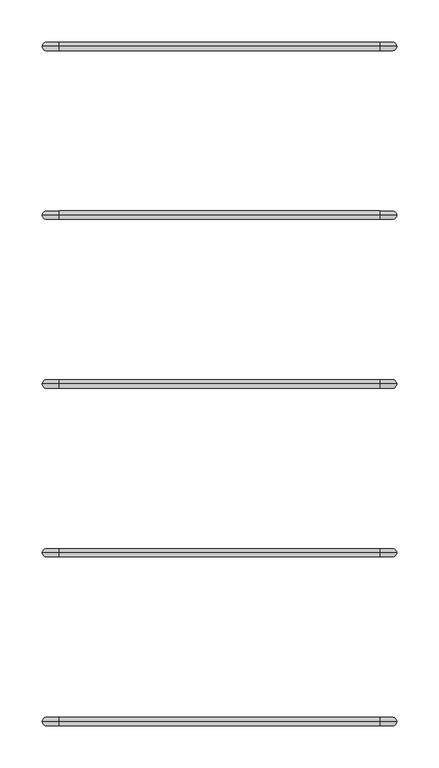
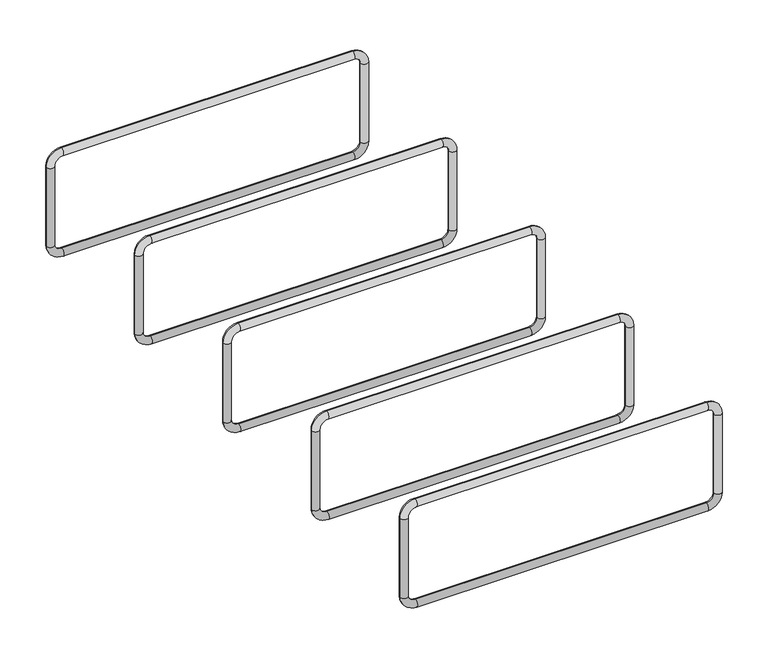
"""IFC4 building model written with IfcOpenShell, lengths in millimetres: fastener geometry, ACINOXplus_Typenreihe_Ux-Ox : OD+ S2."""

import ifcopenshell
import ifcopenshell.guid

model = None  # the IFC model being written
_history = None  # IfcOwnerHistory: only IFC2X3 demands one
_inside = {}  # id of a spatial element -> (the spatial element, [elements in it])
_under = {}  # id of a project, library or spatial element -> (it, [spatial elements below it])
_declared = {}  # id of a project -> (the project, [libraries it declares])
_typed = {}  # id of a type object -> (the type object, [elements of that type])
_made_of = {}  # id of a material, layer set ... -> (it, [elements and type objects made of it])


def new_model(schema):
    """Start an empty IFC model of exactly this schema.

    Asked for "IFC4X3", IfcOpenShell would pick the latest addendum, in which some entities
    have other attributes; the version numbers below select the first issue.
    IFC2X3 requires an IfcOwnerHistory on every rooted entity: one is made here for all.
    """
    global model, _history
    if schema == "IFC4X3":
        model = ifcopenshell.file(schema_version=(4, 3, 0, 0))
    else:
        model = ifcopenshell.file(schema=schema)
    _inside.clear()
    _under.clear()
    _declared.clear()
    _typed.clear()
    _made_of.clear()
    _history = None
    if model.schema == "IFC2X3":
        org = make("IfcOrganization", Name="unknown")
        user = make(
            "IfcPersonAndOrganization",
            ThePerson=make("IfcPerson", FamilyName="unknown"),
            TheOrganization=org,
        )
        app = make(
            "IfcApplication",
            ApplicationDeveloper=org,
            Version="unknown",
            ApplicationFullName="unknown",
            ApplicationIdentifier="unknown",
        )
        _history = make(
            "IfcOwnerHistory",
            OwningUser=user,
            OwningApplication=app,
            ChangeAction="ADDED",
            CreationDate=0,
        )
    return model


def make(cls, **values):
    """One entity of the class cls with the attributes given. An attribute that is None is left unset."""
    return model.create_entity(
        cls, **{name: value for name, value in values.items() if value is not None}
    )


def rooted(cls, **values):
    """An entity with a GlobalId (a new one), such as an element, a storey or a relation."""
    return make(cls, GlobalId=ifcopenshell.guid.new(), OwnerHistory=_history, **values)


def si_unit(unit_type, name, prefix=None):
    """IfcSIUnit, for example si_unit("LENGTHUNIT", "METRE", prefix="MILLI")."""
    return make("IfcSIUnit", UnitType=unit_type, Prefix=prefix, Name=name)


def assignment(units):
    """IfcUnitAssignment: the units of a project."""
    return None if units is None else make("IfcUnitAssignment", Units=units)


def point(xyz):
    """IfcCartesianPoint."""
    return None if xyz is None else make("IfcCartesianPoint", Coordinates=xyz)


def direction(xyz):
    """IfcDirection."""
    return None if xyz is None else make("IfcDirection", DirectionRatios=xyz)


def frame(location, z_axis=None, x_axis=None):
    """IfcAxis2Placement3D, a coordinate frame: its origin and axes. An axis left out is left unset."""
    return make(
        "IfcAxis2Placement3D",
        Location=point(location),
        Axis=direction(z_axis),
        RefDirection=direction(x_axis),
    )


def origin():
    """The frame at (0, 0, 0) with its axes left unset."""
    return frame((0.0, 0.0, 0.0))


def place(relative_to, where):
    """IfcLocalPlacement: puts the frame where relative to a parent placement (None: the world)."""
    return make(
        "IfcLocalPlacement", PlacementRelTo=relative_to, RelativePlacement=where
    )


def context(
    kind, dimensions, precision=None, world=None, true_north=None, identifier=None
):
    """IfcGeometricRepresentationContext, for example the 3D "Model" context."""
    return make(
        "IfcGeometricRepresentationContext",
        ContextIdentifier=identifier,
        ContextType=kind,
        CoordinateSpaceDimension=dimensions,
        Precision=precision,
        WorldCoordinateSystem=world,
        TrueNorth=true_north,
    )


def project(units=None, contexts=None):
    """IfcProject with its units and contexts."""
    return rooted(
        "IfcProject",
        Name="project",
        RepresentationContexts=contexts,
        UnitsInContext=assignment(units),
    )


def spatial(cls, under=None, at=None, **own):
    """A site, building, storey or space (cls), placed at a placement, below another one or the project."""
    s = rooted(cls, ObjectPlacement=at, **own)
    if under is not None:
        _under.setdefault(under.id(), (under, []))[1].append(s)
    return s


def circle_curve(where, radius):
    """IfcCircle in the frame where."""
    return make("IfcCircle", Position=where, Radius=radius)


def ellipse_curve(where, semi_axis1, semi_axis2):
    """IfcEllipse in the frame where."""
    return make(
        "IfcEllipse", Position=where, SemiAxis1=semi_axis1, SemiAxis2=semi_axis2
    )


def trimmed(basis, trim1, trim2, sense, master):
    """IfcTrimmedCurve: the piece of a basis curve between two trims."""
    return make(
        "IfcTrimmedCurve",
        BasisCurve=basis,
        Trim1=trim1,
        Trim2=trim2,
        SenseAgreement=sense,
        MasterRepresentation=master,
    )


def shape(context_of_items, identifier, shape_type, items):
    """IfcShapeRepresentation: the items that make up one representation, for example the "Body"."""
    return make(
        "IfcShapeRepresentation",
        ContextOfItems=context_of_items,
        RepresentationIdentifier=identifier,
        RepresentationType=shape_type,
        Items=items,
    )


def source(mapping_origin, context_of_items, identifier, shape_type, items):
    """IfcRepresentationMap: a shape defined once, which mapped items show again and again."""
    return make(
        "IfcRepresentationMap",
        MappingOrigin=mapping_origin,
        MappedRepresentation=shape(context_of_items, identifier, shape_type, items),
    )


def transform(
    local_origin,
    x_axis=None,
    y_axis=None,
    z_axis=None,
    scale=None,
    scale2=None,
    scale3=None,
    uniform=True,
):
    """IfcCartesianTransformationOperator3D, or its non-uniform kind. x_axis, y_axis, z_axis: its Axis1, 2, 3."""
    if uniform:
        return make(
            "IfcCartesianTransformationOperator3D",
            Axis1=direction(x_axis),
            Axis2=direction(y_axis),
            LocalOrigin=point(local_origin),
            Scale=scale,
            Axis3=direction(z_axis),
        )
    return make(
        "IfcCartesianTransformationOperator3DnonUniform",
        Axis1=direction(x_axis),
        Axis2=direction(y_axis),
        LocalOrigin=point(local_origin),
        Scale=scale,
        Axis3=direction(z_axis),
        Scale2=scale2,
        Scale3=scale3,
    )


def mapped(mapping_source, mapping_target):
    """IfcMappedItem: shows the shape of a source again, moved by a transform."""
    return make(
        "IfcMappedItem", MappingSource=mapping_source, MappingTarget=mapping_target
    )


def made_of(thing, what):
    """Note that an element or type object is made of a material, layer set ...; save() writes the relation."""
    if what is not None:
        _made_of.setdefault(what.id(), (what, []))[1].append(thing)
    return thing


def element(
    cls,
    number,
    at=None,
    inside=None,
    cuts=None,
    type_object=None,
    material=None,
    context=None,
    identifier="Body",
    shape_type=None,
    held_by="IfcProductDefinitionShape",
    body=None,
    shapes=None,
    **own,
):
    """One element of the class cls, such as IfcWall. Its Tag is "e" and its number.

    at: its placement. inside: the storey or other place that contains it. cuts: it is an
    opening in that element (IfcRelVoidsElement). A single representation is given by context,
    identifier, shape_type and body (its items); several are given by shapes. held_by: the class
    of the entity that holds the representations. save() writes the other relations.
    """
    e = rooted(cls, Tag="e%d" % number, ObjectPlacement=at, **own)
    if body is not None:
        shapes = [shape(context, identifier, shape_type, body)]
    if shapes is not None:
        e.Representation = make(held_by, Representations=shapes)
    if inside is not None:
        _inside.setdefault(inside.id(), (inside, []))[1].append(e)
    if cuts is not None:
        rooted(
            "IfcRelVoidsElement", RelatingBuildingElement=cuts, RelatedOpeningElement=e
        )
    if type_object is not None:
        _typed.setdefault(type_object.id(), (type_object, []))[1].append(e)
    return made_of(e, material)


def aggregate(whole, parts):
    """IfcRelAggregates: a whole, such as a stair, and the parts it consists of."""
    return rooted("IfcRelAggregates", RelatingObject=whole, RelatedObjects=parts)


def save(model, path):
    """Write the relations noted so far, then the file.

    IfcRelAggregates (storeys below a building ...), IfcRelContainedInSpatialStructure (elements
    in a storey), IfcRelDefinesByType, IfcRelAssociatesMaterial and IfcRelDeclares: one each for
    every whole, place, type object, material and project.
    """
    for whole, parts in _under.values():
        aggregate(whole, parts)
    for where, things in _inside.values():
        rooted(
            "IfcRelContainedInSpatialStructure",
            RelatedElements=things,
            RelatingStructure=where,
        )
    for kind, things in _typed.values():
        rooted("IfcRelDefinesByType", RelatedObjects=things, RelatingType=kind)
    for what, things in _made_of.values():
        rooted("IfcRelAssociatesMaterial", RelatedObjects=things, RelatingMaterial=what)
    for by, libraries in _declared.values():
        rooted("IfcRelDeclares", RelatingContext=by, RelatedDefinitions=libraries)
    model.write(path)


def cylinder_surface(at, radius):
    """IfcCylindricalSurface: all points at the distance radius from the z axis of the frame at."""
    return make("IfcCylindricalSurface", Position=at, Radius=radius)


def revolved_surface(curve, axis_point, axis_direction):
    """IfcSurfaceOfRevolution: the curve turned about the line through axis_point along axis_direction."""
    return make(
        "IfcSurfaceOfRevolution",
        SweptCurve=make("IfcArbitraryOpenProfileDef", ProfileType="CURVE", Curve=curve),
        AxisPosition=make("IfcAxis1Placement", Location=point(axis_point), Axis=direction(axis_direction)),
    )


def advanced_brep(points, edges, surfaces, faces):
    """IfcAdvancedBrep: a solid bounded by faces that lie on surfaces and meet in shared edges.

    An edge is (start, end): straight between two places in points (the first is 0);
    or (start, end, curve); or (start, end, curve, False) where it runs against its curve.
    A face is (place in surfaces, loops), or (place, loops, False) where it looks against
    its surface's normal. A loop lists edges by number (the first is 1), with a minus sign
    where the edge is run from its end to its start. The first loop is the outer one.
    """
    corners = [point(p) for p in points]
    vertices = [make("IfcVertexPoint", VertexGeometry=c) for c in corners]
    made = []
    for start, end, *more in edges:
        made.append(
            make(
                "IfcEdgeCurve",
                EdgeStart=vertices[start],
                EdgeEnd=vertices[end],
                EdgeGeometry=more[0] if more else make("IfcPolyline", Points=[corners[start], corners[end]]),
                SameSense=more[1] if len(more) > 1 else True,
            )
        )
    hull = []
    for where, loops, *sense in faces:
        bounds = []
        for j, loop in enumerate(loops):
            ring = [make("IfcOrientedEdge", EdgeElement=made[abs(k) - 1], Orientation=k > 0) for k in loop]
            bounds.append(
                make(
                    "IfcFaceOuterBound" if j == 0 else "IfcFaceBound",
                    Bound=make("IfcEdgeLoop", EdgeList=ring),
                    Orientation=True,
                )
            )
        hull.append(make("IfcAdvancedFace", Bounds=bounds, FaceSurface=surfaces[where], SameSense=sense[0] if sense else True))
    return make("IfcAdvancedBrep", Outer=make("IfcClosedShell", CfsFaces=hull))


def fastener_66959c0a(model_context):
    return source(origin(), model_context, "Body", "AdvancedBrep", [
        advanced_brep(
        [(190.0, 200.0, -35.5), (190.0, 200.0, -25.5), (-190.0, 200.0, -25.5), (-190.0, 200.0, -35.5), (-200.0, 200.0, -45.5), (-210.0, 200.0, -45.5), (-210.0, 200.0, -154.5), (-200.0, 200.0, -154.5), (-190.0, 200.0, -164.5), (-190.0, 200.0, -174.5), (190.0, 200.0, -174.5), (190.0, 200.0, -164.5), (200.0, 200.0, -154.5), (210.0, 200.0, -154.5), (210.0, 200.0, -45.5), (200.0, 200.0, -45.5)],
        [
            (0, 1, circle_curve(frame((190.0, 200.0, -30.5), z_axis=(-1.0, 0.0, 0.0), x_axis=(0.0, 0.0, -1.0)), 5.0)),
            (1, 2),
            (2, 3, circle_curve(frame((-190.0, 200.0, -30.5), z_axis=(1.0, 0.0, 0.0), x_axis=(0.0, 0.0, -1.0)), 5.0)),
            (3, 0),
            (1, 0, circle_curve(frame((190.0, 200.0, -30.5), z_axis=(-1.0, 0.0, 0.0), x_axis=(0.0, 0.0, -1.0)), 5.0)),
            (3, 2, circle_curve(frame((-190.0, 200.0, -30.5), z_axis=(1.0, 0.0, 0.0), x_axis=(0.0, 0.0, -1.0)), 5.0)),
            (4, 3, circle_curve(frame((-190.0, 200.0, -45.5), z_axis=(0.0, 1.0, 0.0), x_axis=(0.0, 0.0, 1.0)), 10.0)),
            (2, 5, circle_curve(frame((-190.0, 200.0, -45.5), z_axis=(0.0, -1.0, 0.0), x_axis=(0.0, 0.0, 1.0)), 20.0)),
            (5, 4, circle_curve(frame((-205.0, 200.0, -45.5), z_axis=(0.0, 0.0, 1.0), x_axis=(1.0, 0.0, 0.0)), 5.0)),
            (4, 5, circle_curve(frame((-205.0, 200.0, -45.5), z_axis=(0.0, 0.0, 1.0), x_axis=(1.0, 0.0, 0.0)), 5.0)),
            (5, 6),
            (6, 7, circle_curve(frame((-205.0, 200.0, -154.5), z_axis=(0.0, 0.0, 1.0), x_axis=(1.0, 0.0, 0.0)), 5.0)),
            (7, 4),
            (7, 6, circle_curve(frame((-205.0, 200.0, -154.5), z_axis=(0.0, 0.0, 1.0), x_axis=(1.0, 0.0, 0.0)), 5.0)),
            (8, 7, circle_curve(frame((-190.0, 200.0, -154.5), z_axis=(0.0, 1.0, 0.0), x_axis=(-1.0, 0.0, 0.0)), 10.0)),
            (6, 9, circle_curve(frame((-190.0, 200.0, -154.5), z_axis=(0.0, -1.0, 0.0), x_axis=(-1.0, 0.0, 0.0)), 20.0)),
            (9, 8, circle_curve(frame((-190.0, 200.0, -169.5), z_axis=(-1.0, 0.0, 0.0), x_axis=(0.0, 0.0, 1.0)), 5.0)),
            (8, 9, circle_curve(frame((-190.0, 200.0, -169.5), z_axis=(-1.0, 0.0, 0.0), x_axis=(0.0, 0.0, 1.0)), 5.0)),
            (9, 10),
            (10, 11, circle_curve(frame((190.0, 200.0, -169.5), z_axis=(-1.0, 0.0, 0.0), x_axis=(0.0, 0.0, 1.0)), 5.0)),
            (11, 8),
            (11, 10, circle_curve(frame((190.0, 200.0, -169.5), z_axis=(-1.0, 0.0, 0.0), x_axis=(0.0, 0.0, 1.0)), 5.0)),
            (12, 11, circle_curve(frame((190.0, 200.0, -154.5), z_axis=(0.0, 1.0, 0.0), x_axis=(0.0, 0.0, -1.0)), 10.0)),
            (10, 13, circle_curve(frame((190.0, 200.0, -154.5), z_axis=(0.0, -1.0, 0.0), x_axis=(0.0, 0.0, -1.0)), 20.0)),
            (13, 12, circle_curve(frame((205.0, 200.0, -154.5), z_axis=(0.0, 0.0, -1.0), x_axis=(-1.0, 0.0, 0.0)), 5.0)),
            (12, 13, circle_curve(frame((205.0, 200.0, -154.5), z_axis=(0.0, 0.0, -1.0), x_axis=(-1.0, 0.0, 0.0)), 5.0)),
            (13, 14),
            (14, 15, circle_curve(frame((205.0, 200.0, -45.5), z_axis=(0.0, 0.0, -1.0), x_axis=(-1.0, 0.0, 0.0)), 5.0)),
            (15, 12),
            (15, 14, circle_curve(frame((205.0, 200.0, -45.5), z_axis=(0.0, 0.0, -1.0), x_axis=(-1.0, 0.0, 0.0)), 5.0)),
            (0, 15, circle_curve(frame((190.0, 200.0, -45.5), z_axis=(0.0, 1.0, 0.0), x_axis=(1.0, 0.0, 0.0)), 10.0)),
            (14, 1, circle_curve(frame((190.0, 200.0, -45.5), z_axis=(0.0, -1.0, 0.0), x_axis=(1.0, 0.0, 0.0)), 20.0)),
        ],
        [
            cylinder_surface(frame((190.0, 200.0, -30.5), z_axis=(1.0, 0.0, 0.0), x_axis=(0.0, 0.0, -1.0)), 5.0),
            revolved_surface(trimmed(ellipse_curve(frame((-190.0, 200.0, -30.5), z_axis=(1.0, 0.0, 0.0), x_axis=(0.0, 0.0, -1.0)), 5.0, 5.0), [point((-190.0, 200.0, -25.5))], [point((-190.0, 200.0, -35.5))], True, "CARTESIAN"), (-190.0, 200.0, -45.5), (0.0, -1.0, 0.0)),
            revolved_surface(trimmed(ellipse_curve(frame((-190.0, 200.0, -30.5), z_axis=(1.0, 0.0, 0.0), x_axis=(0.0, 0.0, -1.0)), 5.0, 5.0), [point((-190.0, 200.0, -35.5))], [point((-190.0, 200.0, -25.5))], True, "CARTESIAN"), (-190.0, 200.0, -45.5), (0.0, -1.0, 0.0)),
            cylinder_surface(frame((-205.0, 200.0, -45.5), z_axis=(0.0, 0.0, 1.0), x_axis=(1.0, 0.0, 0.0)), 5.0),
            revolved_surface(trimmed(ellipse_curve(frame((-205.0, 200.0, -154.5), z_axis=(0.0, 0.0, 1.0), x_axis=(1.0, 0.0, 0.0)), 5.0, 5.0), [point((-210.0, 200.0, -154.5))], [point((-200.0, 200.0, -154.5))], True, "CARTESIAN"), (-190.0, 200.0, -154.5), (0.0, -1.0, 0.0)),
            revolved_surface(trimmed(ellipse_curve(frame((-205.0, 200.0, -154.5), z_axis=(0.0, 0.0, 1.0), x_axis=(1.0, 0.0, 0.0)), 5.0, 5.0), [point((-200.0, 200.0, -154.5))], [point((-210.0, 200.0, -154.5))], True, "CARTESIAN"), (-190.0, 200.0, -154.5), (0.0, -1.0, 0.0)),
            cylinder_surface(frame((-190.0, 200.0, -169.5), z_axis=(-1.0, 0.0, 0.0), x_axis=(0.0, 0.0, 1.0)), 5.0),
            revolved_surface(trimmed(ellipse_curve(frame((190.0, 200.0, -169.5), z_axis=(-1.0, 0.0, 0.0), x_axis=(0.0, 0.0, 1.0)), 5.0, 5.0), [point((190.0, 200.0, -174.5))], [point((190.0, 200.0, -164.5))], True, "CARTESIAN"), (190.0, 200.0, -154.5), (0.0, -1.0, 0.0)),
            revolved_surface(trimmed(ellipse_curve(frame((190.0, 200.0, -169.5), z_axis=(-1.0, 0.0, 0.0), x_axis=(0.0, 0.0, 1.0)), 5.0, 5.0), [point((190.0, 200.0, -164.5))], [point((190.0, 200.0, -174.5))], True, "CARTESIAN"), (190.0, 200.0, -154.5), (0.0, -1.0, 0.0)),
            cylinder_surface(frame((205.0, 200.0, -154.5), z_axis=(0.0, 0.0, -1.0), x_axis=(-1.0, 0.0, 0.0)), 5.0),
            revolved_surface(trimmed(ellipse_curve(frame((205.0, 200.0, -45.5), z_axis=(0.0, 0.0, -1.0), x_axis=(-1.0, 0.0, 0.0)), 5.0, 5.0), [point((210.0, 200.0, -45.5))], [point((200.0, 200.0, -45.5))], True, "CARTESIAN"), (190.0, 200.0, -45.5), (0.0, -1.0, 0.0)),
            revolved_surface(trimmed(ellipse_curve(frame((205.0, 200.0, -45.5), z_axis=(0.0, 0.0, -1.0), x_axis=(-1.0, 0.0, 0.0)), 5.0, 5.0), [point((200.0, 200.0, -45.5))], [point((210.0, 200.0, -45.5))], True, "CARTESIAN"), (190.0, 200.0, -45.5), (0.0, -1.0, 0.0)),
        ],
        [
            (0, [[1, 2, 3, 4]]),
            (0, [[5, -4, 6, -2]]),
            (1, [[7, -3, 8, 9]]),
            (2, [[-8, -6, -7, 10]]),
            (3, [[-9, 11, 12, 13]]),
            (3, [[-10, -13, 14, -11]]),
            (4, [[15, -12, 16, 17]]),
            (5, [[-16, -14, -15, 18]]),
            (6, [[-17, 19, 20, 21]]),
            (6, [[-18, -21, 22, -19]]),
            (7, [[23, -20, 24, 25]]),
            (8, [[-24, -22, -23, 26]]),
            (9, [[-25, 27, 28, 29]]),
            (9, [[-26, -29, 30, -27]]),
            (10, [[31, -28, 32, -1]]),
            (11, [[-32, -30, -31, -5]]),
        ],
    ),
        advanced_brep(
        [(190.0, 0.0, -35.5), (190.0, 0.0, -25.5), (-190.0, 0.0, -25.5), (-190.0, 0.0, -35.5), (-200.0, 0.0, -45.5), (-210.0, 0.0, -45.5), (-210.0, 0.0, -154.5), (-200.0, 0.0, -154.5), (-190.0, 0.0, -164.5), (-190.0, 0.0, -174.5), (190.0, 0.0, -174.5), (190.0, 0.0, -164.5), (200.0, 0.0, -154.5), (210.0, 0.0, -154.5), (210.0, 0.0, -45.5), (200.0, 0.0, -45.5)],
        [
            (0, 1, circle_curve(frame((190.0, 0.0, -30.5), z_axis=(-1.0, 0.0, 0.0), x_axis=(0.0, 0.0, -1.0)), 5.0)),
            (1, 2),
            (2, 3, circle_curve(frame((-190.0, 0.0, -30.5), z_axis=(1.0, 0.0, 0.0), x_axis=(0.0, 0.0, -1.0)), 5.0)),
            (3, 0),
            (1, 0, circle_curve(frame((190.0, 0.0, -30.5), z_axis=(-1.0, 0.0, 0.0), x_axis=(0.0, 0.0, -1.0)), 5.0)),
            (3, 2, circle_curve(frame((-190.0, 0.0, -30.5), z_axis=(1.0, 0.0, 0.0), x_axis=(0.0, 0.0, -1.0)), 5.0)),
            (4, 3, circle_curve(frame((-190.0, 0.0, -45.5), z_axis=(0.0, 1.0, 0.0), x_axis=(0.0, 0.0, 1.0)), 10.0)),
            (2, 5, circle_curve(frame((-190.0, 0.0, -45.5), z_axis=(0.0, -1.0, 0.0), x_axis=(0.0, 0.0, 1.0)), 20.0)),
            (5, 4, circle_curve(frame((-205.0, 0.0, -45.5), z_axis=(0.0, 0.0, 1.0), x_axis=(1.0, 0.0, 0.0)), 5.0)),
            (4, 5, circle_curve(frame((-205.0, 0.0, -45.5), z_axis=(0.0, 0.0, 1.0), x_axis=(1.0, 0.0, 0.0)), 5.0)),
            (5, 6),
            (6, 7, circle_curve(frame((-205.0, 0.0, -154.5), z_axis=(0.0, 0.0, 1.0), x_axis=(1.0, 0.0, 0.0)), 5.0)),
            (7, 4),
            (7, 6, circle_curve(frame((-205.0, 0.0, -154.5), z_axis=(0.0, 0.0, 1.0), x_axis=(1.0, 0.0, 0.0)), 5.0)),
            (8, 7, circle_curve(frame((-190.0, 0.0, -154.5), z_axis=(0.0, 1.0, 0.0), x_axis=(-1.0, 0.0, 0.0)), 10.0)),
            (6, 9, circle_curve(frame((-190.0, 0.0, -154.5), z_axis=(0.0, -1.0, 0.0), x_axis=(-1.0, 0.0, 0.0)), 20.0)),
            (9, 8, circle_curve(frame((-190.0, 0.0, -169.5), z_axis=(-1.0, 0.0, 0.0), x_axis=(0.0, 0.0, 1.0)), 5.0)),
            (8, 9, circle_curve(frame((-190.0, 0.0, -169.5), z_axis=(-1.0, 0.0, 0.0), x_axis=(0.0, 0.0, 1.0)), 5.0)),
            (9, 10),
            (10, 11, circle_curve(frame((190.0, 0.0, -169.5), z_axis=(-1.0, 0.0, 0.0), x_axis=(0.0, 0.0, 1.0)), 5.0)),
            (11, 8),
            (11, 10, circle_curve(frame((190.0, 0.0, -169.5), z_axis=(-1.0, 0.0, 0.0), x_axis=(0.0, 0.0, 1.0)), 5.0)),
            (12, 11, circle_curve(frame((190.0, 0.0, -154.5), z_axis=(0.0, 1.0, 0.0), x_axis=(0.0, 0.0, -1.0)), 10.0)),
            (10, 13, circle_curve(frame((190.0, 0.0, -154.5), z_axis=(0.0, -1.0, 0.0), x_axis=(0.0, 0.0, -1.0)), 20.0)),
            (13, 12, circle_curve(frame((205.0, 0.0, -154.5), z_axis=(0.0, 0.0, -1.0), x_axis=(-1.0, 0.0, 0.0)), 5.0)),
            (12, 13, circle_curve(frame((205.0, 0.0, -154.5), z_axis=(0.0, 0.0, -1.0), x_axis=(-1.0, 0.0, 0.0)), 5.0)),
            (13, 14),
            (14, 15, circle_curve(frame((205.0, 0.0, -45.5), z_axis=(0.0, 0.0, -1.0), x_axis=(-1.0, 0.0, 0.0)), 5.0)),
            (15, 12),
            (15, 14, circle_curve(frame((205.0, 0.0, -45.5), z_axis=(0.0, 0.0, -1.0), x_axis=(-1.0, 0.0, 0.0)), 5.0)),
            (0, 15, circle_curve(frame((190.0, 0.0, -45.5), z_axis=(0.0, 1.0, 0.0), x_axis=(1.0, 0.0, 0.0)), 10.0)),
            (14, 1, circle_curve(frame((190.0, 0.0, -45.5), z_axis=(0.0, -1.0, 0.0), x_axis=(1.0, 0.0, 0.0)), 20.0)),
        ],
        [
            cylinder_surface(frame((190.0, 0.0, -30.5), z_axis=(1.0, 0.0, 0.0), x_axis=(0.0, 0.0, -1.0)), 5.0),
            revolved_surface(trimmed(ellipse_curve(frame((-190.0, 0.0, -30.5), z_axis=(1.0, 0.0, 0.0), x_axis=(0.0, 0.0, -1.0)), 5.0, 5.0), [point((-190.0, 0.0, -25.5))], [point((-190.0, 0.0, -35.5))], True, "CARTESIAN"), (-190.0, 0.0, -45.5), (0.0, -1.0, 0.0)),
            revolved_surface(trimmed(ellipse_curve(frame((-190.0, 0.0, -30.5), z_axis=(1.0, 0.0, 0.0), x_axis=(0.0, 0.0, -1.0)), 5.0, 5.0), [point((-190.0, 0.0, -35.5))], [point((-190.0, 0.0, -25.5))], True, "CARTESIAN"), (-190.0, 0.0, -45.5), (0.0, -1.0, 0.0)),
            cylinder_surface(frame((-205.0, 0.0, -45.5), z_axis=(0.0, 0.0, 1.0), x_axis=(1.0, 0.0, 0.0)), 5.0),
            revolved_surface(trimmed(ellipse_curve(frame((-205.0, 0.0, -154.5), z_axis=(0.0, 0.0, 1.0), x_axis=(1.0, 0.0, 0.0)), 5.0, 5.0), [point((-210.0, 0.0, -154.5))], [point((-200.0, 0.0, -154.5))], True, "CARTESIAN"), (-190.0, 0.0, -154.5), (0.0, -1.0, 0.0)),
            revolved_surface(trimmed(ellipse_curve(frame((-205.0, 0.0, -154.5), z_axis=(0.0, 0.0, 1.0), x_axis=(1.0, 0.0, 0.0)), 5.0, 5.0), [point((-200.0, 0.0, -154.5))], [point((-210.0, 0.0, -154.5))], True, "CARTESIAN"), (-190.0, 0.0, -154.5), (0.0, -1.0, 0.0)),
            cylinder_surface(frame((-190.0, 0.0, -169.5), z_axis=(-1.0, 0.0, 0.0), x_axis=(0.0, 0.0, 1.0)), 5.0),
            revolved_surface(trimmed(ellipse_curve(frame((190.0, 0.0, -169.5), z_axis=(-1.0, 0.0, 0.0), x_axis=(0.0, 0.0, 1.0)), 5.0, 5.0), [point((190.0, 0.0, -174.5))], [point((190.0, 0.0, -164.5))], True, "CARTESIAN"), (190.0, 0.0, -154.5), (0.0, -1.0, 0.0)),
            revolved_surface(trimmed(ellipse_curve(frame((190.0, 0.0, -169.5), z_axis=(-1.0, 0.0, 0.0), x_axis=(0.0, 0.0, 1.0)), 5.0, 5.0), [point((190.0, 0.0, -164.5))], [point((190.0, 0.0, -174.5))], True, "CARTESIAN"), (190.0, 0.0, -154.5), (0.0, -1.0, 0.0)),
            cylinder_surface(frame((205.0, 0.0, -154.5), z_axis=(0.0, 0.0, -1.0), x_axis=(-1.0, 0.0, 0.0)), 5.0),
            revolved_surface(trimmed(ellipse_curve(frame((205.0, 0.0, -45.5), z_axis=(0.0, 0.0, -1.0), x_axis=(-1.0, 0.0, 0.0)), 5.0, 5.0), [point((210.0, 0.0, -45.5))], [point((200.0, 0.0, -45.5))], True, "CARTESIAN"), (190.0, 0.0, -45.5), (0.0, -1.0, 0.0)),
            revolved_surface(trimmed(ellipse_curve(frame((205.0, 0.0, -45.5), z_axis=(0.0, 0.0, -1.0), x_axis=(-1.0, 0.0, 0.0)), 5.0, 5.0), [point((200.0, 0.0, -45.5))], [point((210.0, 0.0, -45.5))], True, "CARTESIAN"), (190.0, 0.0, -45.5), (0.0, -1.0, 0.0)),
        ],
        [
            (0, [[1, 2, 3, 4]]),
            (0, [[5, -4, 6, -2]]),
            (1, [[7, -3, 8, 9]]),
            (2, [[-8, -6, -7, 10]]),
            (3, [[-9, 11, 12, 13]]),
            (3, [[-10, -13, 14, -11]]),
            (4, [[15, -12, 16, 17]]),
            (5, [[-16, -14, -15, 18]]),
            (6, [[-17, 19, 20, 21]]),
            (6, [[-18, -21, 22, -19]]),
            (7, [[23, -20, 24, 25]]),
            (8, [[-24, -22, -23, 26]]),
            (9, [[-25, 27, 28, 29]]),
            (9, [[-26, -29, 30, -27]]),
            (10, [[31, -28, 32, -1]]),
            (11, [[-32, -30, -31, -5]]),
        ],
    ),
        advanced_brep(
        [(190.0, -200.0, -35.5), (190.0, -200.0, -25.5), (-190.0, -200.0, -25.5), (-190.0, -200.0, -35.5), (-200.0, -200.0, -45.5), (-210.0, -200.0, -45.5), (-210.0, -200.0, -154.5), (-200.0, -200.0, -154.5), (-190.0, -200.0, -164.5), (-190.0, -200.0, -174.5), (190.0, -200.0, -174.5), (190.0, -200.0, -164.5), (200.0, -200.0, -154.5), (210.0, -200.0, -154.5), (210.0, -200.0, -45.5), (200.0, -200.0, -45.5)],
        [
            (0, 1, circle_curve(frame((190.0, -200.0, -30.5), z_axis=(-1.0, 0.0, 0.0), x_axis=(0.0, 0.0, -1.0)), 5.0)),
            (1, 2),
            (2, 3, circle_curve(frame((-190.0, -200.0, -30.5), z_axis=(1.0, 0.0, 0.0), x_axis=(0.0, 0.0, -1.0)), 5.0)),
            (3, 0),
            (1, 0, circle_curve(frame((190.0, -200.0, -30.5), z_axis=(-1.0, 0.0, 0.0), x_axis=(0.0, 0.0, -1.0)), 5.0)),
            (3, 2, circle_curve(frame((-190.0, -200.0, -30.5), z_axis=(1.0, 0.0, 0.0), x_axis=(0.0, 0.0, -1.0)), 5.0)),
            (4, 3, circle_curve(frame((-190.0, -200.0, -45.5), z_axis=(0.0, 1.0, 0.0), x_axis=(0.0, 0.0, 1.0)), 10.0)),
            (2, 5, circle_curve(frame((-190.0, -200.0, -45.5), z_axis=(0.0, -1.0, 0.0), x_axis=(0.0, 0.0, 1.0)), 20.0)),
            (5, 4, circle_curve(frame((-205.0, -200.0, -45.5), z_axis=(0.0, 0.0, 1.0), x_axis=(1.0, 0.0, 0.0)), 5.0)),
            (4, 5, circle_curve(frame((-205.0, -200.0, -45.5), z_axis=(0.0, 0.0, 1.0), x_axis=(1.0, 0.0, 0.0)), 5.0)),
            (5, 6),
            (6, 7, circle_curve(frame((-205.0, -200.0, -154.5), z_axis=(0.0, 0.0, 1.0), x_axis=(1.0, 0.0, 0.0)), 5.0)),
            (7, 4),
            (7, 6, circle_curve(frame((-205.0, -200.0, -154.5), z_axis=(0.0, 0.0, 1.0), x_axis=(1.0, 0.0, 0.0)), 5.0)),
            (8, 7, circle_curve(frame((-190.0, -200.0, -154.5), z_axis=(0.0, 1.0, 0.0), x_axis=(-1.0, 0.0, 0.0)), 10.0)),
            (6, 9, circle_curve(frame((-190.0, -200.0, -154.5), z_axis=(0.0, -1.0, 0.0), x_axis=(-1.0, 0.0, 0.0)), 20.0)),
            (9, 8, circle_curve(frame((-190.0, -200.0, -169.5), z_axis=(-1.0, 0.0, 0.0), x_axis=(0.0, 0.0, 1.0)), 5.0)),
            (8, 9, circle_curve(frame((-190.0, -200.0, -169.5), z_axis=(-1.0, 0.0, 0.0), x_axis=(0.0, 0.0, 1.0)), 5.0)),
            (9, 10),
            (10, 11, circle_curve(frame((190.0, -200.0, -169.5), z_axis=(-1.0, 0.0, 0.0), x_axis=(0.0, 0.0, 1.0)), 5.0)),
            (11, 8),
            (11, 10, circle_curve(frame((190.0, -200.0, -169.5), z_axis=(-1.0, 0.0, 0.0), x_axis=(0.0, 0.0, 1.0)), 5.0)),
            (12, 11, circle_curve(frame((190.0, -200.0, -154.5), z_axis=(0.0, 1.0, 0.0), x_axis=(0.0, 0.0, -1.0)), 10.0)),
            (10, 13, circle_curve(frame((190.0, -200.0, -154.5), z_axis=(0.0, -1.0, 0.0), x_axis=(0.0, 0.0, -1.0)), 20.0)),
            (13, 12, circle_curve(frame((205.0, -200.0, -154.5), z_axis=(0.0, 0.0, -1.0), x_axis=(-1.0, 0.0, 0.0)), 5.0)),
            (12, 13, circle_curve(frame((205.0, -200.0, -154.5), z_axis=(0.0, 0.0, -1.0), x_axis=(-1.0, 0.0, 0.0)), 5.0)),
            (13, 14),
            (14, 15, circle_curve(frame((205.0, -200.0, -45.5), z_axis=(0.0, 0.0, -1.0), x_axis=(-1.0, 0.0, 0.0)), 5.0)),
            (15, 12),
            (15, 14, circle_curve(frame((205.0, -200.0, -45.5), z_axis=(0.0, 0.0, -1.0), x_axis=(-1.0, 0.0, 0.0)), 5.0)),
            (0, 15, circle_curve(frame((190.0, -200.0, -45.5), z_axis=(0.0, 1.0, 0.0), x_axis=(1.0, 0.0, 0.0)), 10.0)),
            (14, 1, circle_curve(frame((190.0, -200.0, -45.5), z_axis=(0.0, -1.0, 0.0), x_axis=(1.0, 0.0, 0.0)), 20.0)),
        ],
        [
            cylinder_surface(frame((190.0, -200.0, -30.5), z_axis=(1.0, 0.0, 0.0), x_axis=(0.0, 0.0, -1.0)), 5.0),
            revolved_surface(trimmed(ellipse_curve(frame((-190.0, -200.0, -30.5), z_axis=(1.0, 0.0, 0.0), x_axis=(0.0, 0.0, -1.0)), 5.0, 5.0), [point((-190.0, -200.0, -25.5))], [point((-190.0, -200.0, -35.5))], True, "CARTESIAN"), (-190.0, -200.0, -45.5), (0.0, -1.0, 0.0)),
            revolved_surface(trimmed(ellipse_curve(frame((-190.0, -200.0, -30.5), z_axis=(1.0, 0.0, 0.0), x_axis=(0.0, 0.0, -1.0)), 5.0, 5.0), [point((-190.0, -200.0, -35.5))], [point((-190.0, -200.0, -25.5))], True, "CARTESIAN"), (-190.0, -200.0, -45.5), (0.0, -1.0, 0.0)),
            cylinder_surface(frame((-205.0, -200.0, -45.5), z_axis=(0.0, 0.0, 1.0), x_axis=(1.0, 0.0, 0.0)), 5.0),
            revolved_surface(trimmed(ellipse_curve(frame((-205.0, -200.0, -154.5), z_axis=(0.0, 0.0, 1.0), x_axis=(1.0, 0.0, 0.0)), 5.0, 5.0), [point((-210.0, -200.0, -154.5))], [point((-200.0, -200.0, -154.5))], True, "CARTESIAN"), (-190.0, -200.0, -154.5), (0.0, -1.0, 0.0)),
            revolved_surface(trimmed(ellipse_curve(frame((-205.0, -200.0, -154.5), z_axis=(0.0, 0.0, 1.0), x_axis=(1.0, 0.0, 0.0)), 5.0, 5.0), [point((-200.0, -200.0, -154.5))], [point((-210.0, -200.0, -154.5))], True, "CARTESIAN"), (-190.0, -200.0, -154.5), (0.0, -1.0, 0.0)),
            cylinder_surface(frame((-190.0, -200.0, -169.5), z_axis=(-1.0, 0.0, 0.0), x_axis=(0.0, 0.0, 1.0)), 5.0),
            revolved_surface(trimmed(ellipse_curve(frame((190.0, -200.0, -169.5), z_axis=(-1.0, 0.0, 0.0), x_axis=(0.0, 0.0, 1.0)), 5.0, 5.0), [point((190.0, -200.0, -174.5))], [point((190.0, -200.0, -164.5))], True, "CARTESIAN"), (190.0, -200.0, -154.5), (0.0, -1.0, 0.0)),
            revolved_surface(trimmed(ellipse_curve(frame((190.0, -200.0, -169.5), z_axis=(-1.0, 0.0, 0.0), x_axis=(0.0, 0.0, 1.0)), 5.0, 5.0), [point((190.0, -200.0, -164.5))], [point((190.0, -200.0, -174.5))], True, "CARTESIAN"), (190.0, -200.0, -154.5), (0.0, -1.0, 0.0)),
            cylinder_surface(frame((205.0, -200.0, -154.5), z_axis=(0.0, 0.0, -1.0), x_axis=(-1.0, 0.0, 0.0)), 5.0),
            revolved_surface(trimmed(ellipse_curve(frame((205.0, -200.0, -45.5), z_axis=(0.0, 0.0, -1.0), x_axis=(-1.0, 0.0, 0.0)), 5.0, 5.0), [point((210.0, -200.0, -45.5))], [point((200.0, -200.0, -45.5))], True, "CARTESIAN"), (190.0, -200.0, -45.5), (0.0, -1.0, 0.0)),
            revolved_surface(trimmed(ellipse_curve(frame((205.0, -200.0, -45.5), z_axis=(0.0, 0.0, -1.0), x_axis=(-1.0, 0.0, 0.0)), 5.0, 5.0), [point((200.0, -200.0, -45.5))], [point((210.0, -200.0, -45.5))], True, "CARTESIAN"), (190.0, -200.0, -45.5), (0.0, -1.0, 0.0)),
        ],
        [
            (0, [[1, 2, 3, 4]]),
            (0, [[5, -4, 6, -2]]),
            (1, [[7, -3, 8, 9]]),
            (2, [[-8, -6, -7, 10]]),
            (3, [[-9, 11, 12, 13]]),
            (3, [[-10, -13, 14, -11]]),
            (4, [[15, -12, 16, 17]]),
            (5, [[-16, -14, -15, 18]]),
            (6, [[-17, 19, 20, 21]]),
            (6, [[-18, -21, 22, -19]]),
            (7, [[23, -20, 24, 25]]),
            (8, [[-24, -22, -23, 26]]),
            (9, [[-25, 27, 28, 29]]),
            (9, [[-26, -29, 30, -27]]),
            (10, [[31, -28, 32, -1]]),
            (11, [[-32, -30, -31, -5]]),
        ],
    ),
        advanced_brep(
        [(190.0, 400.0, -35.5), (190.0, 400.0, -25.5), (-190.0, 400.0, -25.5), (-190.0, 400.0, -35.5), (-200.0, 400.0, -45.5), (-210.0, 400.0, -45.5), (-210.0, 400.0, -154.5), (-200.0, 400.0, -154.5), (-190.0, 400.0, -164.5), (-190.0, 400.0, -174.5), (190.0, 400.0, -174.5), (190.0, 400.0, -164.5), (200.0, 400.0, -154.5), (210.0, 400.0, -154.5), (210.0, 400.0, -45.5), (200.0, 400.0, -45.5)],
        [
            (0, 1, circle_curve(frame((190.0, 400.0, -30.5), z_axis=(-1.0, 0.0, 0.0), x_axis=(0.0, 0.0, -1.0)), 5.0)),
            (1, 2),
            (2, 3, circle_curve(frame((-190.0, 400.0, -30.5), z_axis=(1.0, 0.0, 0.0), x_axis=(0.0, 0.0, -1.0)), 5.0)),
            (3, 0),
            (1, 0, circle_curve(frame((190.0, 400.0, -30.5), z_axis=(-1.0, 0.0, 0.0), x_axis=(0.0, 0.0, -1.0)), 5.0)),
            (3, 2, circle_curve(frame((-190.0, 400.0, -30.5), z_axis=(1.0, 0.0, 0.0), x_axis=(0.0, 0.0, -1.0)), 5.0)),
            (4, 3, circle_curve(frame((-190.0, 400.0, -45.5), z_axis=(0.0, 1.0, 0.0), x_axis=(0.0, 0.0, 1.0)), 10.0)),
            (2, 5, circle_curve(frame((-190.0, 400.0, -45.5), z_axis=(0.0, -1.0, 0.0), x_axis=(0.0, 0.0, 1.0)), 20.0)),
            (5, 4, circle_curve(frame((-205.0, 400.0, -45.5), z_axis=(0.0, 0.0, 1.0), x_axis=(1.0, 0.0, 0.0)), 5.0)),
            (4, 5, circle_curve(frame((-205.0, 400.0, -45.5), z_axis=(0.0, 0.0, 1.0), x_axis=(1.0, 0.0, 0.0)), 5.0)),
            (5, 6),
            (6, 7, circle_curve(frame((-205.0, 400.0, -154.5), z_axis=(0.0, 0.0, 1.0), x_axis=(1.0, 0.0, 0.0)), 5.0)),
            (7, 4),
            (7, 6, circle_curve(frame((-205.0, 400.0, -154.5), z_axis=(0.0, 0.0, 1.0), x_axis=(1.0, 0.0, 0.0)), 5.0)),
            (8, 7, circle_curve(frame((-190.0, 400.0, -154.5), z_axis=(0.0, 1.0, 0.0), x_axis=(-1.0, 0.0, 0.0)), 10.0)),
            (6, 9, circle_curve(frame((-190.0, 400.0, -154.5), z_axis=(0.0, -1.0, 0.0), x_axis=(-1.0, 0.0, 0.0)), 20.0)),
            (9, 8, circle_curve(frame((-190.0, 400.0, -169.5), z_axis=(-1.0, 0.0, 0.0), x_axis=(0.0, 0.0, 1.0)), 5.0)),
            (8, 9, circle_curve(frame((-190.0, 400.0, -169.5), z_axis=(-1.0, 0.0, 0.0), x_axis=(0.0, 0.0, 1.0)), 5.0)),
            (9, 10),
            (10, 11, circle_curve(frame((190.0, 400.0, -169.5), z_axis=(-1.0, 0.0, 0.0), x_axis=(0.0, 0.0, 1.0)), 5.0)),
            (11, 8),
            (11, 10, circle_curve(frame((190.0, 400.0, -169.5), z_axis=(-1.0, 0.0, 0.0), x_axis=(0.0, 0.0, 1.0)), 5.0)),
            (12, 11, circle_curve(frame((190.0, 400.0, -154.5), z_axis=(0.0, 1.0, 0.0), x_axis=(0.0, 0.0, -1.0)), 10.0)),
            (10, 13, circle_curve(frame((190.0, 400.0, -154.5), z_axis=(0.0, -1.0, 0.0), x_axis=(0.0, 0.0, -1.0)), 20.0)),
            (13, 12, circle_curve(frame((205.0, 400.0, -154.5), z_axis=(0.0, 0.0, -1.0), x_axis=(-1.0, 0.0, 0.0)), 5.0)),
            (12, 13, circle_curve(frame((205.0, 400.0, -154.5), z_axis=(0.0, 0.0, -1.0), x_axis=(-1.0, 0.0, 0.0)), 5.0)),
            (13, 14),
            (14, 15, circle_curve(frame((205.0, 400.0, -45.5), z_axis=(0.0, 0.0, -1.0), x_axis=(-1.0, 0.0, 0.0)), 5.0)),
            (15, 12),
            (15, 14, circle_curve(frame((205.0, 400.0, -45.5), z_axis=(0.0, 0.0, -1.0), x_axis=(-1.0, 0.0, 0.0)), 5.0)),
            (0, 15, circle_curve(frame((190.0, 400.0, -45.5), z_axis=(0.0, 1.0, 0.0), x_axis=(1.0, 0.0, 0.0)), 10.0)),
            (14, 1, circle_curve(frame((190.0, 400.0, -45.5), z_axis=(0.0, -1.0, 0.0), x_axis=(1.0, 0.0, 0.0)), 20.0)),
        ],
        [
            cylinder_surface(frame((190.0, 400.0, -30.5), z_axis=(1.0, 0.0, 0.0), x_axis=(0.0, 0.0, -1.0)), 5.0),
            revolved_surface(trimmed(ellipse_curve(frame((-190.0, 400.0, -30.5), z_axis=(1.0, 0.0, 0.0), x_axis=(0.0, 0.0, -1.0)), 5.0, 5.0), [point((-190.0, 400.0, -25.5))], [point((-190.0, 400.0, -35.5))], True, "CARTESIAN"), (-190.0, 400.0, -45.5), (0.0, -1.0, 0.0)),
            revolved_surface(trimmed(ellipse_curve(frame((-190.0, 400.0, -30.5), z_axis=(1.0, 0.0, 0.0), x_axis=(0.0, 0.0, -1.0)), 5.0, 5.0), [point((-190.0, 400.0, -35.5))], [point((-190.0, 400.0, -25.5))], True, "CARTESIAN"), (-190.0, 400.0, -45.5), (0.0, -1.0, 0.0)),
            cylinder_surface(frame((-205.0, 400.0, -45.5), z_axis=(0.0, 0.0, 1.0), x_axis=(1.0, 0.0, 0.0)), 5.0),
            revolved_surface(trimmed(ellipse_curve(frame((-205.0, 400.0, -154.5), z_axis=(0.0, 0.0, 1.0), x_axis=(1.0, 0.0, 0.0)), 5.0, 5.0), [point((-210.0, 400.0, -154.5))], [point((-200.0, 400.0, -154.5))], True, "CARTESIAN"), (-190.0, 400.0, -154.5), (0.0, -1.0, 0.0)),
            revolved_surface(trimmed(ellipse_curve(frame((-205.0, 400.0, -154.5), z_axis=(0.0, 0.0, 1.0), x_axis=(1.0, 0.0, 0.0)), 5.0, 5.0), [point((-200.0, 400.0, -154.5))], [point((-210.0, 400.0, -154.5))], True, "CARTESIAN"), (-190.0, 400.0, -154.5), (0.0, -1.0, 0.0)),
            cylinder_surface(frame((-190.0, 400.0, -169.5), z_axis=(-1.0, 0.0, 0.0), x_axis=(0.0, 0.0, 1.0)), 5.0),
            revolved_surface(trimmed(ellipse_curve(frame((190.0, 400.0, -169.5), z_axis=(-1.0, 0.0, 0.0), x_axis=(0.0, 0.0, 1.0)), 5.0, 5.0), [point((190.0, 400.0, -174.5))], [point((190.0, 400.0, -164.5))], True, "CARTESIAN"), (190.0, 400.0, -154.5), (0.0, -1.0, 0.0)),
            revolved_surface(trimmed(ellipse_curve(frame((190.0, 400.0, -169.5), z_axis=(-1.0, 0.0, 0.0), x_axis=(0.0, 0.0, 1.0)), 5.0, 5.0), [point((190.0, 400.0, -164.5))], [point((190.0, 400.0, -174.5))], True, "CARTESIAN"), (190.0, 400.0, -154.5), (0.0, -1.0, 0.0)),
            cylinder_surface(frame((205.0, 400.0, -154.5), z_axis=(0.0, 0.0, -1.0), x_axis=(-1.0, 0.0, 0.0)), 5.0),
            revolved_surface(trimmed(ellipse_curve(frame((205.0, 400.0, -45.5), z_axis=(0.0, 0.0, -1.0), x_axis=(-1.0, 0.0, 0.0)), 5.0, 5.0), [point((210.0, 400.0, -45.5))], [point((200.0, 400.0, -45.5))], True, "CARTESIAN"), (190.0, 400.0, -45.5), (0.0, -1.0, 0.0)),
            revolved_surface(trimmed(ellipse_curve(frame((205.0, 400.0, -45.5), z_axis=(0.0, 0.0, -1.0), x_axis=(-1.0, 0.0, 0.0)), 5.0, 5.0), [point((200.0, 400.0, -45.5))], [point((210.0, 400.0, -45.5))], True, "CARTESIAN"), (190.0, 400.0, -45.5), (0.0, -1.0, 0.0)),
        ],
        [
            (0, [[1, 2, 3, 4]]),
            (0, [[5, -4, 6, -2]]),
            (1, [[7, -3, 8, 9]]),
            (2, [[-8, -6, -7, 10]]),
            (3, [[-9, 11, 12, 13]]),
            (3, [[-10, -13, 14, -11]]),
            (4, [[15, -12, 16, 17]]),
            (5, [[-16, -14, -15, 18]]),
            (6, [[-17, 19, 20, 21]]),
            (6, [[-18, -21, 22, -19]]),
            (7, [[23, -20, 24, 25]]),
            (8, [[-24, -22, -23, 26]]),
            (9, [[-25, 27, 28, 29]]),
            (9, [[-26, -29, 30, -27]]),
            (10, [[31, -28, 32, -1]]),
            (11, [[-32, -30, -31, -5]]),
        ],
    ),
        advanced_brep(
        [(190.0, -400.0, -35.5), (190.0, -400.0, -25.5), (-190.0, -400.0, -25.5), (-190.0, -400.0, -35.5), (-200.0, -400.0, -45.5), (-210.0, -400.0, -45.5), (-210.0, -400.0, -154.5), (-200.0, -400.0, -154.5), (-190.0, -400.0, -164.5), (-190.0, -400.0, -174.5), (190.0, -400.0, -174.5), (190.0, -400.0, -164.5), (200.0, -400.0, -154.5), (210.0, -400.0, -154.5), (210.0, -400.0, -45.5), (200.0, -400.0, -45.5)],
        [
            (0, 1, circle_curve(frame((190.0, -400.0, -30.5), z_axis=(-1.0, 0.0, 0.0), x_axis=(0.0, 0.0, -1.0)), 5.0)),
            (1, 2),
            (2, 3, circle_curve(frame((-190.0, -400.0, -30.5), z_axis=(1.0, 0.0, 0.0), x_axis=(0.0, 0.0, -1.0)), 5.0)),
            (3, 0),
            (1, 0, circle_curve(frame((190.0, -400.0, -30.5), z_axis=(-1.0, 0.0, 0.0), x_axis=(0.0, 0.0, -1.0)), 5.0)),
            (3, 2, circle_curve(frame((-190.0, -400.0, -30.5), z_axis=(1.0, 0.0, 0.0), x_axis=(0.0, 0.0, -1.0)), 5.0)),
            (4, 3, circle_curve(frame((-190.0, -400.0, -45.5), z_axis=(0.0, 1.0, 0.0), x_axis=(0.0, 0.0, 1.0)), 10.0)),
            (2, 5, circle_curve(frame((-190.0, -400.0, -45.5), z_axis=(0.0, -1.0, 0.0), x_axis=(0.0, 0.0, 1.0)), 20.0)),
            (5, 4, circle_curve(frame((-205.0, -400.0, -45.5), z_axis=(0.0, 0.0, 1.0), x_axis=(1.0, 0.0, 0.0)), 5.0)),
            (4, 5, circle_curve(frame((-205.0, -400.0, -45.5), z_axis=(0.0, 0.0, 1.0), x_axis=(1.0, 0.0, 0.0)), 5.0)),
            (5, 6),
            (6, 7, circle_curve(frame((-205.0, -400.0, -154.5), z_axis=(0.0, 0.0, 1.0), x_axis=(1.0, 0.0, 0.0)), 5.0)),
            (7, 4),
            (7, 6, circle_curve(frame((-205.0, -400.0, -154.5), z_axis=(0.0, 0.0, 1.0), x_axis=(1.0, 0.0, 0.0)), 5.0)),
            (8, 7, circle_curve(frame((-190.0, -400.0, -154.5), z_axis=(0.0, 1.0, 0.0), x_axis=(-1.0, 0.0, 0.0)), 10.0)),
            (6, 9, circle_curve(frame((-190.0, -400.0, -154.5), z_axis=(0.0, -1.0, 0.0), x_axis=(-1.0, 0.0, 0.0)), 20.0)),
            (9, 8, circle_curve(frame((-190.0, -400.0, -169.5), z_axis=(-1.0, 0.0, 0.0), x_axis=(0.0, 0.0, 1.0)), 5.0)),
            (8, 9, circle_curve(frame((-190.0, -400.0, -169.5), z_axis=(-1.0, 0.0, 0.0), x_axis=(0.0, 0.0, 1.0)), 5.0)),
            (9, 10),
            (10, 11, circle_curve(frame((190.0, -400.0, -169.5), z_axis=(-1.0, 0.0, 0.0), x_axis=(0.0, 0.0, 1.0)), 5.0)),
            (11, 8),
            (11, 10, circle_curve(frame((190.0, -400.0, -169.5), z_axis=(-1.0, 0.0, 0.0), x_axis=(0.0, 0.0, 1.0)), 5.0)),
            (12, 11, circle_curve(frame((190.0, -400.0, -154.5), z_axis=(0.0, 1.0, 0.0), x_axis=(0.0, 0.0, -1.0)), 10.0)),
            (10, 13, circle_curve(frame((190.0, -400.0, -154.5), z_axis=(0.0, -1.0, 0.0), x_axis=(0.0, 0.0, -1.0)), 20.0)),
            (13, 12, circle_curve(frame((205.0, -400.0, -154.5), z_axis=(0.0, 0.0, -1.0), x_axis=(-1.0, 0.0, 0.0)), 5.0)),
            (12, 13, circle_curve(frame((205.0, -400.0, -154.5), z_axis=(0.0, 0.0, -1.0), x_axis=(-1.0, 0.0, 0.0)), 5.0)),
            (13, 14),
            (14, 15, circle_curve(frame((205.0, -400.0, -45.5), z_axis=(0.0, 0.0, -1.0), x_axis=(-1.0, 0.0, 0.0)), 5.0)),
            (15, 12),
            (15, 14, circle_curve(frame((205.0, -400.0, -45.5), z_axis=(0.0, 0.0, -1.0), x_axis=(-1.0, 0.0, 0.0)), 5.0)),
            (0, 15, circle_curve(frame((190.0, -400.0, -45.5), z_axis=(0.0, 1.0, 0.0), x_axis=(1.0, 0.0, 0.0)), 10.0)),
            (14, 1, circle_curve(frame((190.0, -400.0, -45.5), z_axis=(0.0, -1.0, 0.0), x_axis=(1.0, 0.0, 0.0)), 20.0)),
        ],
        [
            cylinder_surface(frame((190.0, -400.0, -30.5), z_axis=(1.0, 0.0, 0.0), x_axis=(0.0, 0.0, -1.0)), 5.0),
            revolved_surface(trimmed(ellipse_curve(frame((-190.0, -400.0, -30.5), z_axis=(1.0, 0.0, 0.0), x_axis=(0.0, 0.0, -1.0)), 5.0, 5.0), [point((-190.0, -400.0, -25.5))], [point((-190.0, -400.0, -35.5))], True, "CARTESIAN"), (-190.0, -400.0, -45.5), (0.0, -1.0, 0.0)),
            revolved_surface(trimmed(ellipse_curve(frame((-190.0, -400.0, -30.5), z_axis=(1.0, 0.0, 0.0), x_axis=(0.0, 0.0, -1.0)), 5.0, 5.0), [point((-190.0, -400.0, -35.5))], [point((-190.0, -400.0, -25.5))], True, "CARTESIAN"), (-190.0, -400.0, -45.5), (0.0, -1.0, 0.0)),
            cylinder_surface(frame((-205.0, -400.0, -45.5), z_axis=(0.0, 0.0, 1.0), x_axis=(1.0, 0.0, 0.0)), 5.0),
            revolved_surface(trimmed(ellipse_curve(frame((-205.0, -400.0, -154.5), z_axis=(0.0, 0.0, 1.0), x_axis=(1.0, 0.0, 0.0)), 5.0, 5.0), [point((-210.0, -400.0, -154.5))], [point((-200.0, -400.0, -154.5))], True, "CARTESIAN"), (-190.0, -400.0, -154.5), (0.0, -1.0, 0.0)),
            revolved_surface(trimmed(ellipse_curve(frame((-205.0, -400.0, -154.5), z_axis=(0.0, 0.0, 1.0), x_axis=(1.0, 0.0, 0.0)), 5.0, 5.0), [point((-200.0, -400.0, -154.5))], [point((-210.0, -400.0, -154.5))], True, "CARTESIAN"), (-190.0, -400.0, -154.5), (0.0, -1.0, 0.0)),
            cylinder_surface(frame((-190.0, -400.0, -169.5), z_axis=(-1.0, 0.0, 0.0), x_axis=(0.0, 0.0, 1.0)), 5.0),
            revolved_surface(trimmed(ellipse_curve(frame((190.0, -400.0, -169.5), z_axis=(-1.0, 0.0, 0.0), x_axis=(0.0, 0.0, 1.0)), 5.0, 5.0), [point((190.0, -400.0, -174.5))], [point((190.0, -400.0, -164.5))], True, "CARTESIAN"), (190.0, -400.0, -154.5), (0.0, -1.0, 0.0)),
            revolved_surface(trimmed(ellipse_curve(frame((190.0, -400.0, -169.5), z_axis=(-1.0, 0.0, 0.0), x_axis=(0.0, 0.0, 1.0)), 5.0, 5.0), [point((190.0, -400.0, -164.5))], [point((190.0, -400.0, -174.5))], True, "CARTESIAN"), (190.0, -400.0, -154.5), (0.0, -1.0, 0.0)),
            cylinder_surface(frame((205.0, -400.0, -154.5), z_axis=(0.0, 0.0, -1.0), x_axis=(-1.0, 0.0, 0.0)), 5.0),
            revolved_surface(trimmed(ellipse_curve(frame((205.0, -400.0, -45.5), z_axis=(0.0, 0.0, -1.0), x_axis=(-1.0, 0.0, 0.0)), 5.0, 5.0), [point((210.0, -400.0, -45.5))], [point((200.0, -400.0, -45.5))], True, "CARTESIAN"), (190.0, -400.0, -45.5), (0.0, -1.0, 0.0)),
            revolved_surface(trimmed(ellipse_curve(frame((205.0, -400.0, -45.5), z_axis=(0.0, 0.0, -1.0), x_axis=(-1.0, 0.0, 0.0)), 5.0, 5.0), [point((200.0, -400.0, -45.5))], [point((210.0, -400.0, -45.5))], True, "CARTESIAN"), (190.0, -400.0, -45.5), (0.0, -1.0, 0.0)),
        ],
        [
            (0, [[1, 2, 3, 4]]),
            (0, [[5, -4, 6, -2]]),
            (1, [[7, -3, 8, 9]]),
            (2, [[-8, -6, -7, 10]]),
            (3, [[-9, 11, 12, 13]]),
            (3, [[-10, -13, 14, -11]]),
            (4, [[15, -12, 16, 17]]),
            (5, [[-16, -14, -15, 18]]),
            (6, [[-17, 19, 20, 21]]),
            (6, [[-18, -21, 22, -19]]),
            (7, [[23, -20, 24, 25]]),
            (8, [[-24, -22, -23, 26]]),
            (9, [[-25, 27, 28, 29]]),
            (9, [[-26, -29, 30, -27]]),
            (10, [[31, -28, 32, -1]]),
            (11, [[-32, -30, -31, -5]]),
        ],
    ),
    ])


if __name__ == "__main__":
    model = new_model("IFC4")
    model_context = context("Model", 3, world=origin())
    ifc_project = project(units=[si_unit("LENGTHUNIT", "METRE", prefix="MILLI")], contexts=[model_context])
    site = spatial("IfcSite", under=ifc_project)
    building = spatial("IfcBuilding", under=site)
    placement = place(None, origin())
    fastener_shape = fastener_66959c0a(model_context)
    element("IfcFastener", 1, ObjectType="ACINOXplus_Typenreihe_Ux-Ox : OD+ S2", at=placement, inside=building, context=model_context, shape_type="MappedRepresentation", body=[
        mapped(fastener_shape, transform((0.0, 0.0, 0.0), x_axis=(1.0, 0.0, 0.0), y_axis=(0.0, 1.0, 0.0), z_axis=(0.0, 0.0, 1.0))),
    ])
    save(model, "model.ifc")
